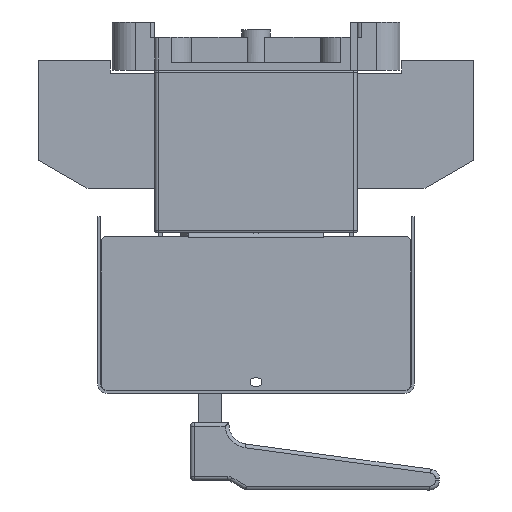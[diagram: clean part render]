
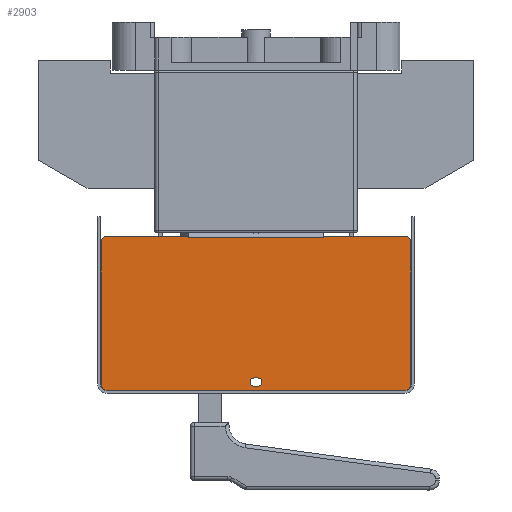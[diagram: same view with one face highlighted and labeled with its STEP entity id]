
A CAD part, left-side view. The second image highlights one B-rep face of the part: STEP entity #2903.
In plain terms, the highlighted planar face has unit normal (-1, 0, 0).
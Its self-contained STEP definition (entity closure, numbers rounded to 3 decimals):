
#769=FACE_BOUND('',#6769,.T.);
#770=FACE_BOUND('',#6770,.T.);
#1533=CIRCLE('',#28812,2.1);
#1535=CIRCLE('',#28816,2.1);
#1537=CIRCLE('',#28820,3.);
#1539=CIRCLE('',#28823,3.);
#1541=CIRCLE('',#28827,3.);
#1543=CIRCLE('',#28831,3.);
#2903=ADVANCED_FACE('',(#769,#770),#4001,.T.);
#4001=PLANE('',#28834);
#6769=EDGE_LOOP('',(#13310,#13311,#13312,#13313,#13314,#13315,#13316,#13317,
#13318,#13319,#13320,#13321,#13322,#13323));
#6770=EDGE_LOOP('',(#13324,#13325,#13326,#13327));
#13310=ORIENTED_EDGE('',*,*,#20447,.F.);
#13311=ORIENTED_EDGE('',*,*,#20448,.T.);
#13312=ORIENTED_EDGE('',*,*,#20449,.T.);
#13313=ORIENTED_EDGE('',*,*,#20450,.T.);
#13314=ORIENTED_EDGE('',*,*,#20451,.F.);
#13315=ORIENTED_EDGE('',*,*,#20439,.T.);
#13316=ORIENTED_EDGE('',*,*,#20444,.T.);
#13317=ORIENTED_EDGE('',*,*,#20425,.T.);
#13318=ORIENTED_EDGE('',*,*,#20429,.T.);
#13319=ORIENTED_EDGE('',*,*,#20452,.T.);
#13320=ORIENTED_EDGE('',*,*,#20432,.T.);
#13321=ORIENTED_EDGE('',*,*,#20436,.T.);
#13322=ORIENTED_EDGE('',*,*,#20438,.T.);
#13323=ORIENTED_EDGE('',*,*,#20411,.T.);
#13324=ORIENTED_EDGE('',*,*,#20415,.T.);
#13325=ORIENTED_EDGE('',*,*,#20419,.T.);
#13326=ORIENTED_EDGE('',*,*,#20422,.T.);
#13327=ORIENTED_EDGE('',*,*,#20446,.T.);
#16850=VERTEX_POINT('',#43585);
#16851=VERTEX_POINT('',#43587);
#16854=VERTEX_POINT('',#43594);
#16855=VERTEX_POINT('',#43596);
#16857=VERTEX_POINT('',#43602);
#16859=VERTEX_POINT('',#43608);
#16862=VERTEX_POINT('',#43615);
#16863=VERTEX_POINT('',#43617);
#16864=VERTEX_POINT('',#43622);
#16866=VERTEX_POINT('',#43628);
#16867=VERTEX_POINT('',#43630);
#16869=VERTEX_POINT('',#43636);
#16870=VERTEX_POINT('',#43643);
#16871=VERTEX_POINT('',#43644);
#16874=VERTEX_POINT('',#43658);
#16875=VERTEX_POINT('',#43660);
#16876=VERTEX_POINT('',#43662);
#16877=VERTEX_POINT('',#43664);
#20411=EDGE_CURVE('',#16851,#16850,#23558,.T.);
#20415=EDGE_CURVE('',#16855,#16854,#1533,.T.);
#20419=EDGE_CURVE('',#16854,#16857,#23564,.T.);
#20422=EDGE_CURVE('',#16857,#16859,#1535,.T.);
#20425=EDGE_CURVE('',#16863,#16862,#23568,.T.);
#20429=EDGE_CURVE('',#16862,#16864,#1537,.T.);
#20432=EDGE_CURVE('',#16867,#16866,#1539,.T.);
#20436=EDGE_CURVE('',#16866,#16869,#23575,.T.);
#20438=EDGE_CURVE('',#16869,#16851,#1541,.T.);
#20439=EDGE_CURVE('',#16870,#16871,#23576,.T.);
#20444=EDGE_CURVE('',#16871,#16863,#1543,.T.);
#20446=EDGE_CURVE('',#16859,#16855,#23581,.T.);
#20447=EDGE_CURVE('',#16874,#16850,#23582,.T.);
#20448=EDGE_CURVE('',#16874,#16875,#23583,.T.);
#20449=EDGE_CURVE('',#16875,#16876,#23584,.T.);
#20450=EDGE_CURVE('',#16876,#16877,#23585,.T.);
#20451=EDGE_CURVE('',#16870,#16877,#23586,.T.);
#20452=EDGE_CURVE('',#16864,#16867,#23587,.T.);
#23558=LINE('',#43586,#26487);
#23564=LINE('',#43603,#26493);
#23568=LINE('',#43616,#26497);
#23575=LINE('',#43637,#26504);
#23576=LINE('',#43642,#26505);
#23581=LINE('',#43655,#26510);
#23582=LINE('',#43657,#26511);
#23583=LINE('',#43659,#26512);
#23584=LINE('',#43661,#26513);
#23585=LINE('',#43663,#26514);
#23586=LINE('',#43665,#26515);
#23587=LINE('',#43666,#26516);
#26487=VECTOR('',#35357,1.);
#26493=VECTOR('',#35371,1.);
#26497=VECTOR('',#35383,1.);
#26504=VECTOR('',#35404,1.);
#26505=VECTOR('',#35413,1.);
#26510=VECTOR('',#35426,1.);
#26511=VECTOR('',#35429,1.);
#26512=VECTOR('',#35430,1.);
#26513=VECTOR('',#35431,1.);
#26514=VECTOR('',#35432,1.);
#26515=VECTOR('',#35433,1.);
#26516=VECTOR('',#35434,1.);
#28812=AXIS2_PLACEMENT_3D('',#43595,#35364,#35365);
#28816=AXIS2_PLACEMENT_3D('',#43609,#35377,#35378);
#28820=AXIS2_PLACEMENT_3D('',#43623,#35390,#35391);
#28823=AXIS2_PLACEMENT_3D('',#43629,#35397,#35398);
#28827=AXIS2_PLACEMENT_3D('',#43640,#35409,#35410);
#28831=AXIS2_PLACEMENT_3D('',#43652,#35421,#35422);
#28834=AXIS2_PLACEMENT_3D('',#43667,#35435,#35436);
#35357=DIRECTION('',(0.,1.,0.));
#35364=DIRECTION('',(1.,0.,0.));
#35365=DIRECTION('',(0.,1.,0.));
#35371=DIRECTION('',(0.,-1.,0.));
#35377=DIRECTION('',(1.,0.,0.));
#35378=DIRECTION('',(0.,1.,0.));
#35383=DIRECTION('',(0.,0.,-1.));
#35390=DIRECTION('',(-1.,0.,0.));
#35391=DIRECTION('',(0.,1.,0.));
#35397=DIRECTION('',(-1.,0.,0.));
#35398=DIRECTION('',(0.,1.,0.));
#35404=DIRECTION('',(0.,0.,1.));
#35409=DIRECTION('',(-1.,0.,0.));
#35410=DIRECTION('',(0.,1.,0.));
#35413=DIRECTION('',(0.,1.,0.));
#35421=DIRECTION('',(-1.,0.,0.));
#35422=DIRECTION('',(0.,1.,0.));
#35426=DIRECTION('',(0.,1.,0.));
#35429=DIRECTION('',(0.,0.,1.));
#35430=DIRECTION('',(0.,1.,0.));
#35431=DIRECTION('',(0.,1.,0.));
#35432=DIRECTION('',(0.,1.,0.));
#35433=DIRECTION('',(0.,0.,-1.));
#35434=DIRECTION('',(0.,-1.,0.));
#35435=DIRECTION('',(-1.,0.,0.));
#35436=DIRECTION('',(0.,-1.,0.));
#43585=CARTESIAN_POINT('',(-189.3,-35.002,-85.8));
#43586=CARTESIAN_POINT('',(-189.3,-77.,-85.8));
#43587=CARTESIAN_POINT('',(-189.3,-77.,-85.8));
#43594=CARTESIAN_POINT('',(-189.3,1.,-159.3));
#43595=CARTESIAN_POINT('',(-189.3,1.,-161.4));
#43596=CARTESIAN_POINT('',(-189.3,1.,-163.5));
#43602=CARTESIAN_POINT('',(-189.3,-1.,-159.3));
#43603=CARTESIAN_POINT('',(-189.3,1.,-159.3));
#43608=CARTESIAN_POINT('',(-189.3,-1.,-163.5));
#43609=CARTESIAN_POINT('',(-189.3,-1.,-161.4));
#43615=CARTESIAN_POINT('',(-189.3,80.,-162.8));
#43616=CARTESIAN_POINT('',(-189.3,80.,-88.8));
#43617=CARTESIAN_POINT('',(-189.3,80.,-88.8));
#43622=CARTESIAN_POINT('',(-189.3,77.,-165.8));
#43623=CARTESIAN_POINT('',(-189.3,77.,-162.8));
#43628=CARTESIAN_POINT('',(-189.3,-80.,-162.8));
#43629=CARTESIAN_POINT('',(-189.3,-77.,-162.8));
#43630=CARTESIAN_POINT('',(-189.3,-77.,-165.8));
#43636=CARTESIAN_POINT('',(-189.3,-80.,-88.8));
#43637=CARTESIAN_POINT('',(-189.3,-80.,-162.8));
#43640=CARTESIAN_POINT('',(-189.3,-77.,-88.8));
#43642=CARTESIAN_POINT('',(-189.3,-77.,-85.8));
#43643=CARTESIAN_POINT('',(-189.3,35.002,-85.8));
#43644=CARTESIAN_POINT('',(-189.3,77.,-85.8));
#43652=CARTESIAN_POINT('',(-189.3,77.,-88.8));
#43655=CARTESIAN_POINT('',(-189.3,-1.,-163.5));
#43657=CARTESIAN_POINT('',(-189.3,-35.002,-162.8));
#43658=CARTESIAN_POINT('',(-189.3,-35.002,-86.8));
#43659=CARTESIAN_POINT('',(-189.3,77.,-86.8));
#43660=CARTESIAN_POINT('',(-189.3,-35.,-86.8));
#43661=CARTESIAN_POINT('',(-189.3,50.5,-86.8));
#43662=CARTESIAN_POINT('',(-189.3,35.,-86.8));
#43663=CARTESIAN_POINT('',(-189.3,77.,-86.8));
#43664=CARTESIAN_POINT('',(-189.3,35.002,-86.8));
#43665=CARTESIAN_POINT('',(-189.3,35.002,-162.8));
#43666=CARTESIAN_POINT('',(-189.3,77.,-165.8));
#43667=CARTESIAN_POINT('',(-189.3,77.,-162.8));
